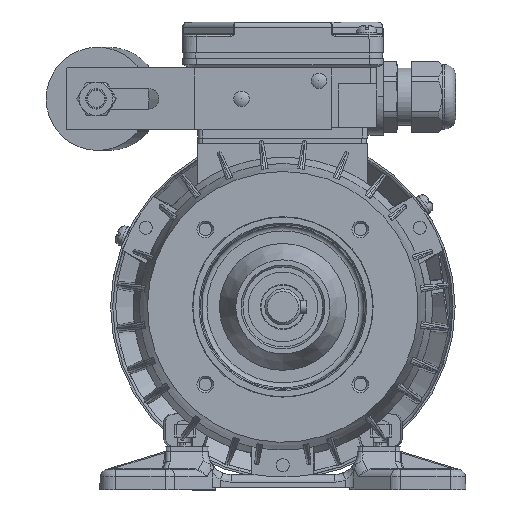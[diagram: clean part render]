
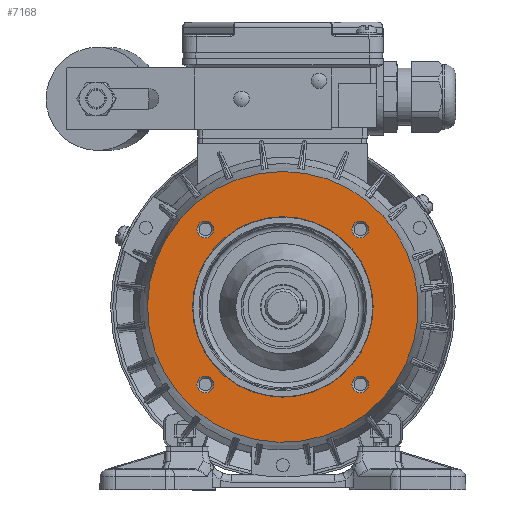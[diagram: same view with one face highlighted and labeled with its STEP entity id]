
A CAD part, front view. The second image highlights one B-rep face of the part: STEP entity #7168.
In plain terms, the highlighted planar face has unit normal (0, -1, 0) as drawn and (-1, 0, 0) by its records, which use the part's own axes.
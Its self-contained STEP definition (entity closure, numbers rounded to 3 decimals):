
#7168 = ADVANCED_FACE( '', ( #14873, #14874, #14875, #14876, #14877, #14878 ), #14879, .F. );
#14873 = FACE_BOUND( '', #51936, .T. );
#14874 = FACE_BOUND( '', #51937, .T. );
#14875 = FACE_BOUND( '', #51938, .T. );
#14876 = FACE_BOUND( '', #51939, .T. );
#14877 = FACE_BOUND( '', #51940, .T. );
#14878 = FACE_OUTER_BOUND( '', #51941, .T. );
#14879 = PLANE( '', #51942 );
#51936 = EDGE_LOOP( '', ( #84965 ) );
#51937 = EDGE_LOOP( '', ( #84966 ) );
#51938 = EDGE_LOOP( '', ( #84967 ) );
#51939 = EDGE_LOOP( '', ( #84968 ) );
#51940 = EDGE_LOOP( '', ( #84969 ) );
#51941 = EDGE_LOOP( '', ( #84970 ) );
#51942 = AXIS2_PLACEMENT_3D( '', #84971, #84972, #84973 );
#84965 = ORIENTED_EDGE( '', *, *, #94102, .T. );
#84966 = ORIENTED_EDGE( '', *, *, #96133, .T. );
#84967 = ORIENTED_EDGE( '', *, *, #96755, .T. );
#84968 = ORIENTED_EDGE( '', *, *, #99884, .T. );
#84969 = ORIENTED_EDGE( '', *, *, #99885, .F. );
#84970 = ORIENTED_EDGE( '', *, *, #97879, .T. );
#84971 = CARTESIAN_POINT( '', ( 2.5, 0., 52.5 ) );
#84972 = DIRECTION( '', ( 1., 0., 0. ) );
#84973 = DIRECTION( '', ( 0., 0., -1. ) );
#94102 = EDGE_CURVE( '', #105431, #105431, #105432, .T. );
#96133 = EDGE_CURVE( '', #108639, #108639, #108640, .T. );
#96755 = EDGE_CURVE( '', #109566, #109566, #109567, .T. );
#97879 = EDGE_CURVE( '', #111202, #111202, #111203, .T. );
#99884 = EDGE_CURVE( '', #113775, #113775, #113776, .T. );
#99885 = EDGE_CURVE( '', #113777, #113777, #113778, .T. );
#105431 = VERTEX_POINT( '', #128534 );
#105432 = CIRCLE( '', #128535, 3.259 );
#108639 = VERTEX_POINT( '', #140691 );
#108640 = CIRCLE( '', #140692, 3.259 );
#109566 = VERTEX_POINT( '', #143881 );
#109567 = CIRCLE( '', #143882, 3.259 );
#111202 = VERTEX_POINT( '', #151158 );
#111203 = CIRCLE( '', #151159, 52.5 );
#113775 = VERTEX_POINT( '', #159683 );
#113776 = CIRCLE( '', #159684, 3.259 );
#113777 = VERTEX_POINT( '', #159685 );
#113778 = CIRCLE( '', #159686, 35. );
#128534 = CARTESIAN_POINT( '', ( 2.5, 26.794, 30.052 ) );
#128535 = AXIS2_PLACEMENT_3D( '', #167267, #167268, #167269 );
#140691 = CARTESIAN_POINT( '', ( 2.5, 26.794, -30.052 ) );
#140692 = AXIS2_PLACEMENT_3D( '', #169613, #169614, #169615 );
#143881 = CARTESIAN_POINT( '', ( 2.5, -33.311, -30.052 ) );
#143882 = AXIS2_PLACEMENT_3D( '', #170287, #170288, #170289 );
#151158 = CARTESIAN_POINT( '', ( 2.5, 0., 52.5 ) );
#151159 = AXIS2_PLACEMENT_3D( '', #171450, #171451, #171452 );
#159683 = CARTESIAN_POINT( '', ( 2.5, -33.311, 30.052 ) );
#159684 = AXIS2_PLACEMENT_3D( '', #173595, #173596, #173597 );
#159685 = CARTESIAN_POINT( '', ( 2.5, 0., 35. ) );
#159686 = AXIS2_PLACEMENT_3D( '', #173598, #173599, #173600 );
#167267 = CARTESIAN_POINT( '', ( 2.5, 30.052, 30.052 ) );
#167268 = DIRECTION( '', ( 1., 0., 0. ) );
#167269 = DIRECTION( '', ( 0., -1., 0. ) );
#169613 = CARTESIAN_POINT( '', ( 2.5, 30.052, -30.052 ) );
#169614 = DIRECTION( '', ( 1., 0., 0. ) );
#169615 = DIRECTION( '', ( 0., -1., 0. ) );
#170287 = CARTESIAN_POINT( '', ( 2.5, -30.052, -30.052 ) );
#170288 = DIRECTION( '', ( 1., 0., 0. ) );
#170289 = DIRECTION( '', ( 0., -1., 0. ) );
#171450 = CARTESIAN_POINT( '', ( 2.5, 0., 0. ) );
#171451 = DIRECTION( '', ( -1., 0., 0. ) );
#171452 = DIRECTION( '', ( 0., 0., 1. ) );
#173595 = CARTESIAN_POINT( '', ( 2.5, -30.052, 30.052 ) );
#173596 = DIRECTION( '', ( 1., 0., 0. ) );
#173597 = DIRECTION( '', ( 0., -1., 0. ) );
#173598 = CARTESIAN_POINT( '', ( 2.5, 0., 0. ) );
#173599 = DIRECTION( '', ( -1., 0., 0. ) );
#173600 = DIRECTION( '', ( 0., 0., 1. ) );
